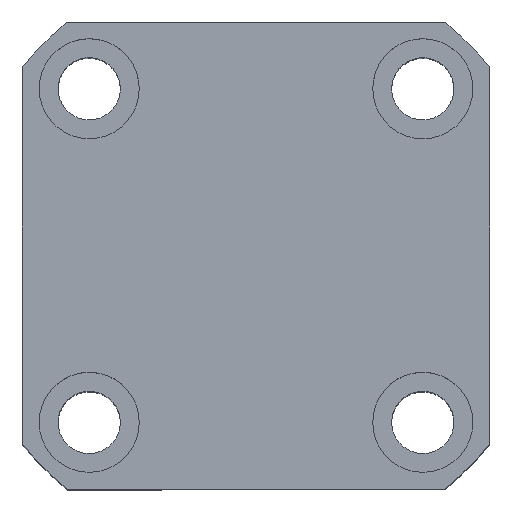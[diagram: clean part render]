
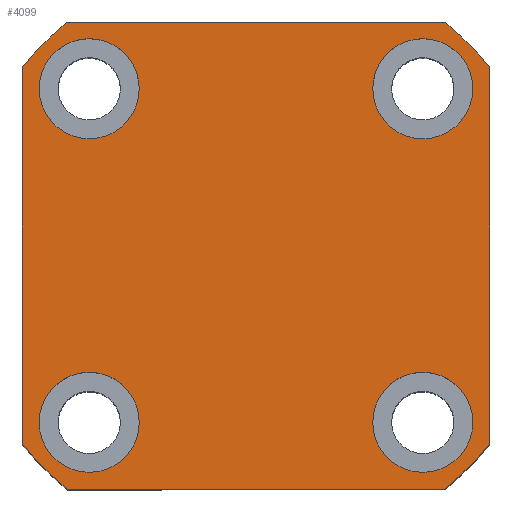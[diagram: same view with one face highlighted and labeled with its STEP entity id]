
A CAD part, top view. The second image highlights one B-rep face of the part: STEP entity #4099.
In plain terms, the highlighted planar face has unit normal (0, 0, 1).
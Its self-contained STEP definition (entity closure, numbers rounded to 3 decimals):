
#4 = AXIS2_PLACEMENT_3D ( 'NONE', #7409, #946, #8465 ) ;
#34 = DIRECTION ( 'NONE',  ( 0., 0., 1. ) ) ;
#49 = EDGE_CURVE ( 'NONE', #5761, #8941, #5023, .T. ) ;
#130 = VERTEX_POINT ( 'NONE', #11896 ) ;
#161 = ORIENTED_EDGE ( 'NONE', *, *, #5532, .F. ) ;
#210 = DIRECTION ( 'NONE',  ( 1., 0., 0. ) ) ;
#375 = EDGE_CURVE ( 'NONE', #1760, #3396, #8733, .T. ) ;
#430 = CARTESIAN_POINT ( 'NONE',  ( 0., 0., 48. ) ) ;
#599 = CARTESIAN_POINT ( 'NONE',  ( 21., -16.971, 48. ) ) ;
#674 = CARTESIAN_POINT ( 'NONE',  ( 15., 15., 48. ) ) ;
#720 = DIRECTION ( 'NONE',  ( 0., 0., 1. ) ) ;
#724 = DIRECTION ( 'NONE',  ( 0., 0., 1. ) ) ;
#766 = DIRECTION ( 'NONE',  ( 1., 0., 0. ) ) ;
#775 = CARTESIAN_POINT ( 'NONE',  ( -21., -16.971, 48. ) ) ;
#805 = DIRECTION ( 'NONE',  ( 0., 0., 1. ) ) ;
#946 = DIRECTION ( 'NONE',  ( 0., 0., 1. ) ) ;
#1223 = CARTESIAN_POINT ( 'NONE',  ( -19.5, 15.002, 48. ) ) ;
#1494 = DIRECTION ( 'NONE',  ( 0., 0., 1. ) ) ;
#1519 = ORIENTED_EDGE ( 'NONE', *, *, #11002, .T. ) ;
#1526 = DIRECTION ( 'NONE',  ( 0., 0., 1. ) ) ;
#1570 = LINE ( 'NONE', #10829, #9787 ) ;
#1691 = ORIENTED_EDGE ( 'NONE', *, *, #10920, .F. ) ;
#1745 = EDGE_CURVE ( 'NONE', #8941, #3509, #3150, .T. ) ;
#1760 = VERTEX_POINT ( 'NONE', #6301 ) ;
#1840 = DIRECTION ( 'NONE',  ( 0., 1., 0. ) ) ;
#2043 = AXIS2_PLACEMENT_3D ( 'NONE', #12007, #5617, #13090 ) ;
#2135 = VERTEX_POINT ( 'NONE', #6001 ) ;
#2312 = CIRCLE ( 'NONE', #2472, 4.5 ) ;
#2361 = EDGE_CURVE ( 'NONE', #5852, #130, #2312, .T. ) ;
#2383 = DIRECTION ( 'NONE',  ( 1., 0., 0. ) ) ;
#2393 = DIRECTION ( 'NONE',  ( 0., 0., 1. ) ) ;
#2398 = CARTESIAN_POINT ( 'NONE',  ( 0., 0., 48. ) ) ;
#2423 = FACE_BOUND ( 'NONE', #8588, .T. ) ;
#2472 = AXIS2_PLACEMENT_3D ( 'NONE', #674, #720, #766 ) ;
#2866 = EDGE_LOOP ( 'NONE', ( #9093, #6603 ) ) ;
#2919 = CARTESIAN_POINT ( 'NONE',  ( -10.5, 15.002, 48. ) ) ;
#3150 = CIRCLE ( 'NONE', #10899, 27. ) ;
#3386 = ORIENTED_EDGE ( 'NONE', *, *, #7340, .T. ) ;
#3396 = VERTEX_POINT ( 'NONE', #775 ) ;
#3509 = VERTEX_POINT ( 'NONE', #599 ) ;
#3657 = VERTEX_POINT ( 'NONE', #6700 ) ;
#3920 = CIRCLE ( 'NONE', #12394, 4.5 ) ;
#4078 = DIRECTION ( 'NONE',  ( 0., 0., 1. ) ) ;
#4099 = ADVANCED_FACE ( 'NONE', ( #5281, #2423, #10612, #7816, #4940 ), #13285, .T. ) ;
#4279 = EDGE_CURVE ( 'NONE', #3657, #2135, #3920, .T. ) ;
#4426 = DIRECTION ( 'NONE',  ( -1., 0., 0. ) ) ;
#4558 = ORIENTED_EDGE ( 'NONE', *, *, #375, .T. ) ;
#4600 = LINE ( 'NONE', #9346, #7145 ) ;
#4835 = AXIS2_PLACEMENT_3D ( 'NONE', #12400, #6023, #13468 ) ;
#4940 = FACE_OUTER_BOUND ( 'NONE', #6088, .T. ) ;
#5023 = LINE ( 'NONE', #12113, #10374 ) ;
#5043 = ORIENTED_EDGE ( 'NONE', *, *, #49, .T. ) ;
#5188 = VECTOR ( 'NONE', #12726, 1000. ) ;
#5221 = AXIS2_PLACEMENT_3D ( 'NONE', #430, #1526, #9056 ) ;
#5281 = FACE_BOUND ( 'NONE', #8111, .T. ) ;
#5287 = AXIS2_PLACEMENT_3D ( 'NONE', #11849, #5449, #12919 ) ;
#5449 = DIRECTION ( 'NONE',  ( 0., 0., 1. ) ) ;
#5532 = EDGE_CURVE ( 'NONE', #9765, #8768, #9625, .T. ) ;
#5617 = DIRECTION ( 'NONE',  ( 0., 0., 1. ) ) ;
#5761 = VERTEX_POINT ( 'NONE', #11839 ) ;
#5851 = CARTESIAN_POINT ( 'NONE',  ( 0., 0., 48. ) ) ;
#5852 = VERTEX_POINT ( 'NONE', #7516 ) ;
#5862 = CARTESIAN_POINT ( 'NONE',  ( -16.971, 21., 48. ) ) ;
#5865 = EDGE_CURVE ( 'NONE', #3396, #5761, #10121, .T. ) ;
#5886 = AXIS2_PLACEMENT_3D ( 'NONE', #7197, #724, #8257 ) ;
#5916 = ORIENTED_EDGE ( 'NONE', *, *, #10001, .F. ) ;
#6001 = CARTESIAN_POINT ( 'NONE',  ( -19.5, -14.998, 48. ) ) ;
#6023 = DIRECTION ( 'NONE',  ( 0., 0., 1. ) ) ;
#6043 = EDGE_LOOP ( 'NONE', ( #161, #5916 ) ) ;
#6088 = EDGE_LOOP ( 'NONE', ( #6098, #3386, #1519, #8263, #4558, #13261, #5043, #12250 ) ) ;
#6098 = ORIENTED_EDGE ( 'NONE', *, *, #13081, .T. ) ;
#6301 = CARTESIAN_POINT ( 'NONE',  ( -21., 16.971, 48. ) ) ;
#6530 = CARTESIAN_POINT ( 'NONE',  ( -15., 15.002, 48. ) ) ;
#6603 = ORIENTED_EDGE ( 'NONE', *, *, #13753, .F. ) ;
#6700 = CARTESIAN_POINT ( 'NONE',  ( -10.5, -14.998, 48. ) ) ;
#6941 = DIRECTION ( 'NONE',  ( 1., 0., 0. ) ) ;
#6981 = CARTESIAN_POINT ( 'NONE',  ( 16.971, 21., 48. ) ) ;
#7145 = VECTOR ( 'NONE', #1840, 1000. ) ;
#7197 = CARTESIAN_POINT ( 'NONE',  ( 15., -14.998, 48. ) ) ;
#7273 = CARTESIAN_POINT ( 'NONE',  ( 15., 15., 48. ) ) ;
#7317 = CIRCLE ( 'NONE', #5886, 4.5 ) ;
#7340 = EDGE_CURVE ( 'NONE', #7743, #12548, #8126, .T. ) ;
#7409 = CARTESIAN_POINT ( 'NONE',  ( -15., -14.998, 48. ) ) ;
#7516 = CARTESIAN_POINT ( 'NONE',  ( 19.5, 15., 48. ) ) ;
#7589 = DIRECTION ( 'NONE',  ( 1., 0., 0. ) ) ;
#7638 = CIRCLE ( 'NONE', #12944, 4.5 ) ;
#7743 = VERTEX_POINT ( 'NONE', #10714 ) ;
#7816 = FACE_BOUND ( 'NONE', #2866, .T. ) ;
#7939 = CARTESIAN_POINT ( 'NONE',  ( -15., 15.002, 48. ) ) ;
#7988 = CARTESIAN_POINT ( 'NONE',  ( 19.5, -14.998, 48. ) ) ;
#8111 = EDGE_LOOP ( 'NONE', ( #13734, #1691 ) ) ;
#8126 = CIRCLE ( 'NONE', #2043, 27. ) ;
#8257 = DIRECTION ( 'NONE',  ( 1., 0., 0. ) ) ;
#8263 = ORIENTED_EDGE ( 'NONE', *, *, #9747, .T. ) ;
#8334 = DIRECTION ( 'NONE',  ( 1., 0., 0. ) ) ;
#8350 = CIRCLE ( 'NONE', #13291, 27. ) ;
#8402 = ORIENTED_EDGE ( 'NONE', *, *, #13838, .F. ) ;
#8465 = DIRECTION ( 'NONE',  ( 1., 0., 0. ) ) ;
#8588 = EDGE_LOOP ( 'NONE', ( #10901, #8402 ) ) ;
#8733 = LINE ( 'NONE', #12827, #5188 ) ;
#8768 = VERTEX_POINT ( 'NONE', #11047 ) ;
#8941 = VERTEX_POINT ( 'NONE', #9070 ) ;
#9023 = DIRECTION ( 'NONE',  ( 1., 0., 0. ) ) ;
#9056 = DIRECTION ( 'NONE',  ( 1., 0., 0. ) ) ;
#9070 = CARTESIAN_POINT ( 'NONE',  ( 16.971, -21., 48. ) ) ;
#9093 = ORIENTED_EDGE ( 'NONE', *, *, #2361, .F. ) ;
#9346 = CARTESIAN_POINT ( 'NONE',  ( 21., 21., 48. ) ) ;
#9625 = CIRCLE ( 'NONE', #4835, 4.5 ) ;
#9735 = EDGE_CURVE ( 'NONE', #13164, #11499, #12574, .T. ) ;
#9747 = EDGE_CURVE ( 'NONE', #11217, #1760, #8350, .T. ) ;
#9765 = VERTEX_POINT ( 'NONE', #7988 ) ;
#9787 = VECTOR ( 'NONE', #4426, 1000. ) ;
#10001 = EDGE_CURVE ( 'NONE', #8768, #9765, #7317, .T. ) ;
#10121 = CIRCLE ( 'NONE', #5287, 27. ) ;
#10374 = VECTOR ( 'NONE', #210, 1000. ) ;
#10399 = AXIS2_PLACEMENT_3D ( 'NONE', #7939, #1494, #9023 ) ;
#10488 = CARTESIAN_POINT ( 'NONE',  ( -15., -14.998, 48. ) ) ;
#10612 = FACE_BOUND ( 'NONE', #6043, .T. ) ;
#10714 = CARTESIAN_POINT ( 'NONE',  ( 21., 16.971, 48. ) ) ;
#10775 = CIRCLE ( 'NONE', #13239, 4.5 ) ;
#10829 = CARTESIAN_POINT ( 'NONE',  ( -21., 21., 48. ) ) ;
#10899 = AXIS2_PLACEMENT_3D ( 'NONE', #2398, #2393, #2383 ) ;
#10901 = ORIENTED_EDGE ( 'NONE', *, *, #4279, .F. ) ;
#10920 = EDGE_CURVE ( 'NONE', #11499, #13164, #7638, .T. ) ;
#11002 = EDGE_CURVE ( 'NONE', #12548, #11217, #1570, .T. ) ;
#11047 = CARTESIAN_POINT ( 'NONE',  ( 10.5, -14.998, 48. ) ) ;
#11217 = VERTEX_POINT ( 'NONE', #5862 ) ;
#11499 = VERTEX_POINT ( 'NONE', #1223 ) ;
#11572 = DIRECTION ( 'NONE',  ( 1., 0., 0. ) ) ;
#11839 = CARTESIAN_POINT ( 'NONE',  ( -16.971, -21., 48. ) ) ;
#11849 = CARTESIAN_POINT ( 'NONE',  ( 0., 0., 48. ) ) ;
#11896 = CARTESIAN_POINT ( 'NONE',  ( 10.5, 15., 48. ) ) ;
#12007 = CARTESIAN_POINT ( 'NONE',  ( 0., 0., 48. ) ) ;
#12113 = CARTESIAN_POINT ( 'NONE',  ( -21., -21., 48. ) ) ;
#12250 = ORIENTED_EDGE ( 'NONE', *, *, #1745, .T. ) ;
#12394 = AXIS2_PLACEMENT_3D ( 'NONE', #10488, #4078, #11572 ) ;
#12400 = CARTESIAN_POINT ( 'NONE',  ( 15., -14.998, 48. ) ) ;
#12548 = VERTEX_POINT ( 'NONE', #6981 ) ;
#12574 = CIRCLE ( 'NONE', #10399, 4.5 ) ;
#12726 = DIRECTION ( 'NONE',  ( 0., -1., 0. ) ) ;
#12827 = CARTESIAN_POINT ( 'NONE',  ( -21., 21., 48. ) ) ;
#12919 = DIRECTION ( 'NONE',  ( 1., 0., 0. ) ) ;
#12944 = AXIS2_PLACEMENT_3D ( 'NONE', #6530, #34, #7589 ) ;
#13081 = EDGE_CURVE ( 'NONE', #3509, #7743, #4600, .T. ) ;
#13090 = DIRECTION ( 'NONE',  ( 1., 0., 0. ) ) ;
#13164 = VERTEX_POINT ( 'NONE', #2919 ) ;
#13239 = AXIS2_PLACEMENT_3D ( 'NONE', #7273, #805, #8334 ) ;
#13261 = ORIENTED_EDGE ( 'NONE', *, *, #5865, .T. ) ;
#13285 = PLANE ( 'NONE',  #5221 ) ;
#13291 = AXIS2_PLACEMENT_3D ( 'NONE', #5851, #13298, #6941 ) ;
#13295 = CIRCLE ( 'NONE', #4, 4.5 ) ;
#13298 = DIRECTION ( 'NONE',  ( 0., 0., 1. ) ) ;
#13468 = DIRECTION ( 'NONE',  ( 1., 0., 0. ) ) ;
#13734 = ORIENTED_EDGE ( 'NONE', *, *, #9735, .F. ) ;
#13753 = EDGE_CURVE ( 'NONE', #130, #5852, #10775, .T. ) ;
#13838 = EDGE_CURVE ( 'NONE', #2135, #3657, #13295, .T. ) ;
